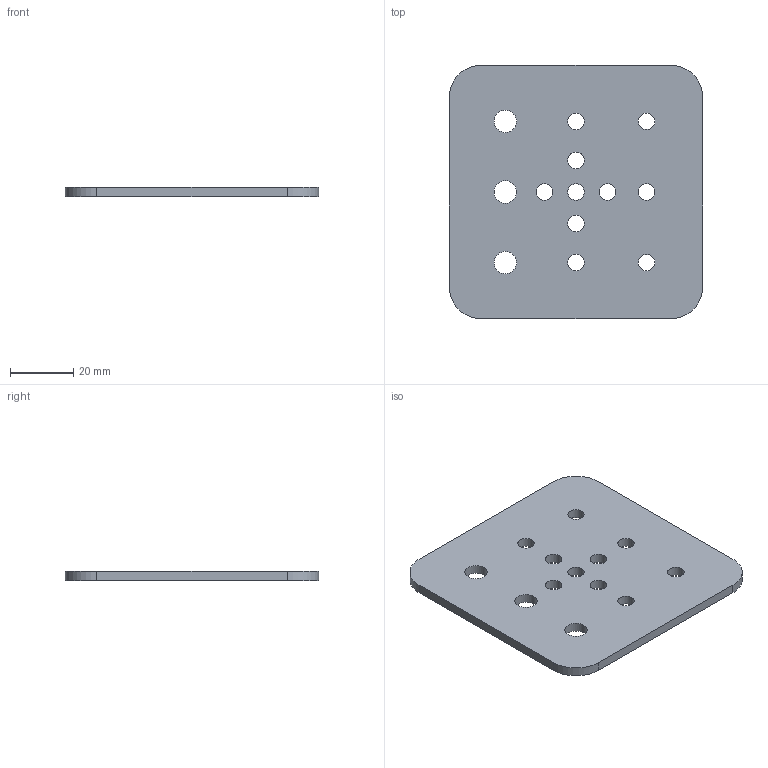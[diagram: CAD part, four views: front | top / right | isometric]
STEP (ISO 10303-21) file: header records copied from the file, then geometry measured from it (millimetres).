
FILE_DESCRIPTION(/* description */ ('STEP AP203'),/* implementation_level */ '2;1');
FILE_NAME(/* name */ 'MotionRail Gantry Plate - Small - 80x80mm.step',/* time_stamp */ '2025-05-29T12:26:51+02:00',/* author */ (''),/* organization */ (''),/* preprocessor_version */ 'ST-DEVELOPER v20.1',/* originating_system */ 'Autodesk Translation Framework v14.4.0.0',/* authorisation */ '');
FILE_SCHEMA (('AUTOMOTIVE_DESIGN { 1 0 10303 214 3 1 1 }'));
Length unit declared in the file: millimetre
Products named in the file (1): Open Rail Gantry Plate 20mm
Bounding box: 80 x 80 x 3 mm (x, y, z)
Volume: 17949 mm3; surface area: 13565.4 mm2
Topology: 1 solids, 1 shells, 23 faces, 63 edges, 42 vertices
Faces by surface type: cylinder 17, plane 6
Full cylindrical faces by diameter (mm): 5.2 x10, 7.1 x3
Entity records: 836 total; most frequent: DIRECTION 145, CARTESIAN_POINT 129, ORIENTED_EDGE 126, EDGE_CURVE 63, AXIS2_PLACEMENT_3D 58, EDGE_LOOP 49, VERTEX_POINT 42, CIRCLE 34
